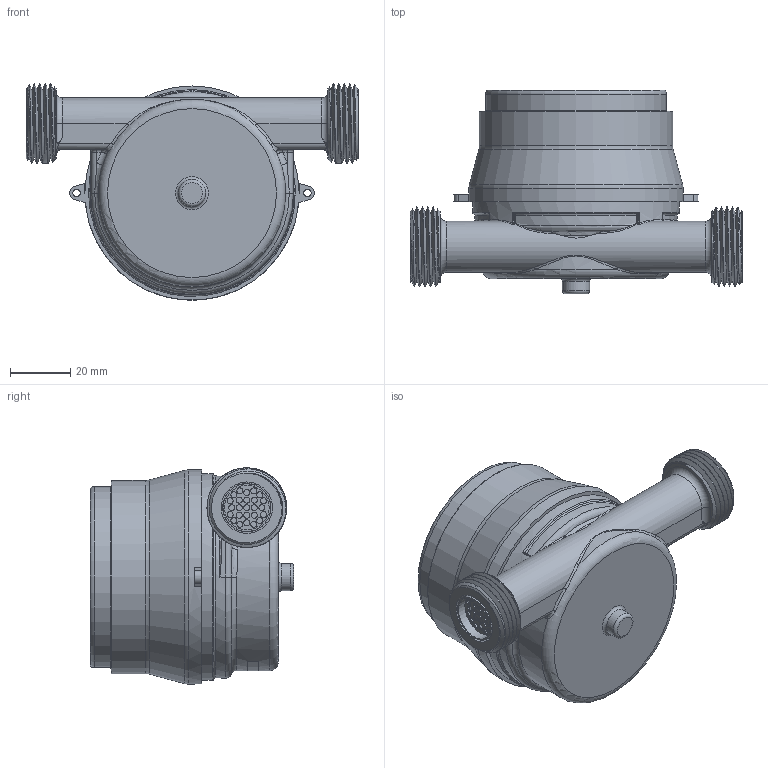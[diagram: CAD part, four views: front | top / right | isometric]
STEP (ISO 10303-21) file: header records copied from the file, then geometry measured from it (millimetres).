
FILE_DESCRIPTION(/* description */ (''),/* implementation_level */ '2;1');
FILE_NAME(/* name */ 'F:\Артём\00000\Работа удаленка\VT.VMF.15.LR.0.M.stp',/* time_stamp */ '2021-03-02T11:59:22+03:00',/* author */ ('almis'),/* organization */ (''),/* preprocessor_version */ 'ST-DEVELOPER v18',/* originating_system */ 'Autodesk Inventor 2020',/* authorisation */ '');
FILE_SCHEMA (('AUTOMOTIVE_DESIGN { 1 0 10303 214 3 1 1 }'));
Products named in the file (1): VLF-15U-IRS
Bounding box: 110 x 67.33 x 71.7 mm (x, y, z)
Volume: 186817.5 mm3; surface area: 33807.3 mm2
Topology: 2 solids, 2 shells, 1488 faces, 3999 edges, 2650 vertices
Faces by surface type: plane 848, bspline 485, cylinder 110, torus 32, cone 13
Full cylindrical faces by diameter (mm): 2 x25, 2.5 x2, 9 x1, 12 x1, 14.8 x2, 15.8 x1, 17 x2, 22.8 x10, 26.4 x8, 59 x1, 60 x1, 63 x1, 64 x1, 68.5 x1, 71 x1
Entity records: 54633 total; most frequent: CARTESIAN_POINT 20519, ORIENTED_EDGE 7982, DIRECTION 5202, EDGE_CURVE 3991, VERTEX_POINT 2650, LINE 2614, VECTOR 2614, EDGE_LOOP 1687
